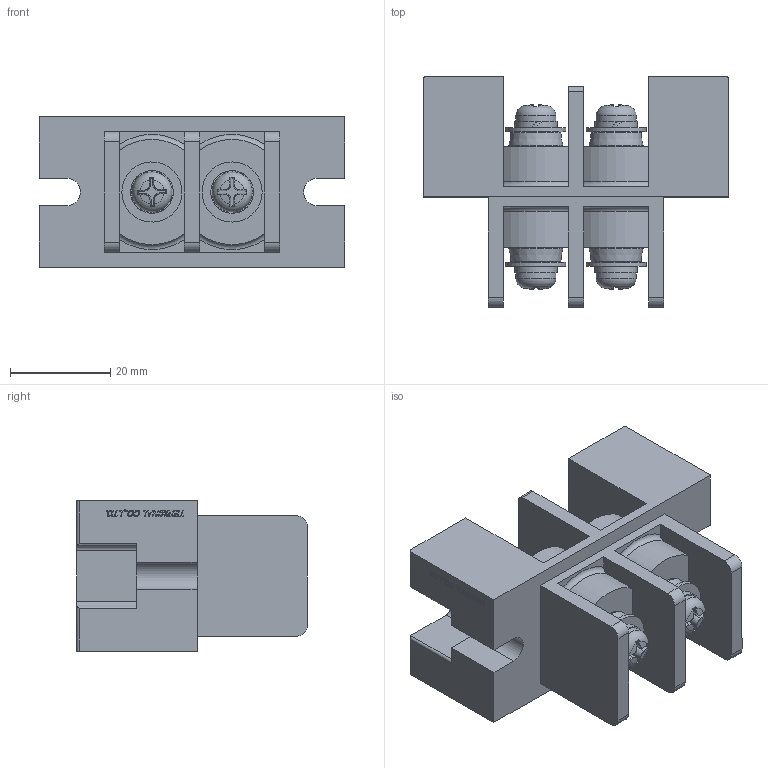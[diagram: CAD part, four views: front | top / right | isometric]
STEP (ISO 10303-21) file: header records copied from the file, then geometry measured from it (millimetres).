
FILE_DESCRIPTION(/* description */ ('Alibre Inc.'),/* implementation_level */ '2;1');
FILE_NAME(/* name */ 'export0',/* time_stamp */ '2016-01-14T19:32:16+09:00',/* author */ (''),/* organization */ (''),/* preprocessor_version */ 'ST-DEVELOPER v14',/* originating_system */ 'Alibre',/* authorisation */ '');
FILE_SCHEMA (('CONFIG_CONTROL_DESIGN'));
Length unit declared in the file: centimetre
Products named in the file (1): ID_1
Bounding box: 61 x 46 x 30 mm (x, y, z)
Volume: 38083.5 mm3; surface area: 15334.1 mm2
Topology: 1 solids, 7 shells, 452 faces, 1198 edges, 791 vertices
Faces by surface type: plane 274, cylinder 66, bspline 52, cone 32, sphere 16, torus 12
Full cylindrical faces by diameter (mm): 4.55 x2, 5 x6, 8 x4, 10.75 x4, 12 x4
Entity records: 13850 total; most frequent: CARTESIAN_POINT 3668, ORIENTED_EDGE 2282, DIRECTION 1583, EDGE_CURVE 1141, VERTEX_POINT 774, VECTOR 697, LINE 697, AXIS2_PLACEMENT_3D 577
